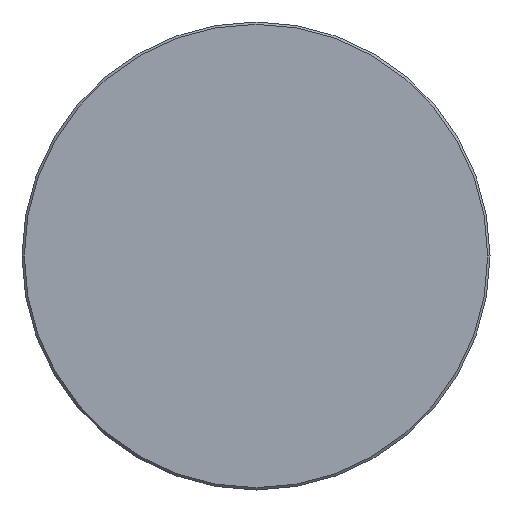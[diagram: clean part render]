
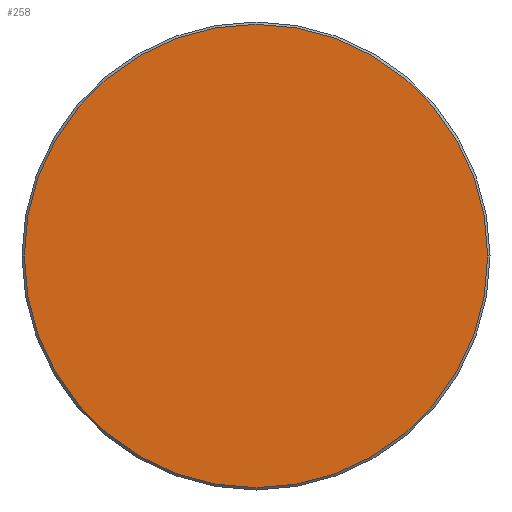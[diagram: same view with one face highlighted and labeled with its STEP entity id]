
A CAD part, left-side view. The second image highlights one B-rep face of the part: STEP entity #258.
In plain terms, the highlighted planar face has unit normal (-1, 0, 0).
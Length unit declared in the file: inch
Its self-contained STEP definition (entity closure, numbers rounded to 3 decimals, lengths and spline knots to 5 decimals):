
#10 = VERTEX_POINT ( 'NONE', #359 ) ;
#20 = DIRECTION ( 'NONE',  ( 0., -1., 0. ) ) ;
#82 = EDGE_LOOP ( 'NONE', ( #160, #313 ) ) ;
#92 = DIRECTION ( 'NONE',  ( -1., 0., 0. ) ) ;
#111 = CARTESIAN_POINT ( 'NONE',  ( 0., 0., 0. ) ) ;
#123 = AXIS2_PLACEMENT_3D ( 'NONE', #257, #260, #20 ) ;
#142 = CARTESIAN_POINT ( 'NONE',  ( 0., 0.40225, 0. ) ) ;
#160 = ORIENTED_EDGE ( 'NONE', *, *, #180, .T. ) ;
#171 = CIRCLE ( 'NONE', #123, 0.40225 ) ;
#180 = EDGE_CURVE ( 'NONE', #322, #10, #211, .T. ) ;
#208 = CARTESIAN_POINT ( 'NONE',  ( 0., 0., 0. ) ) ;
#210 = AXIS2_PLACEMENT_3D ( 'NONE', #111, #92, #220 ) ;
#211 = CIRCLE ( 'NONE', #329, 0.40225 ) ;
#220 = DIRECTION ( 'NONE',  ( 0., -1., 0. ) ) ;
#257 = CARTESIAN_POINT ( 'NONE',  ( 0., 0., 0. ) ) ;
#258 = ADVANCED_FACE ( 'NONE', ( #333 ), #283, .T. ) ;
#260 = DIRECTION ( 'NONE',  ( -1., 0., 0. ) ) ;
#281 = DIRECTION ( 'NONE',  ( -1., 0., 0. ) ) ;
#283 = PLANE ( 'NONE',  #210 ) ;
#313 = ORIENTED_EDGE ( 'NONE', *, *, #331, .T. ) ;
#322 = VERTEX_POINT ( 'NONE', #142 ) ;
#329 = AXIS2_PLACEMENT_3D ( 'NONE', #208, #281, #364 ) ;
#331 = EDGE_CURVE ( 'NONE', #10, #322, #171, .T. ) ;
#333 = FACE_OUTER_BOUND ( 'NONE', #82, .T. ) ;
#359 = CARTESIAN_POINT ( 'NONE',  ( 0., -0.40225, 0. ) ) ;
#364 = DIRECTION ( 'NONE',  ( 0., -1., 0. ) ) ;
